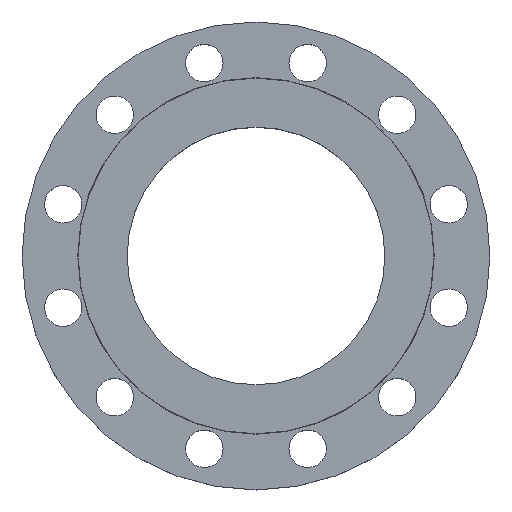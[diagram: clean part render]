
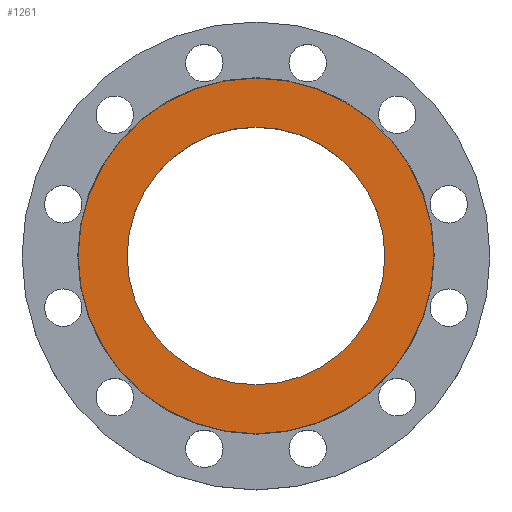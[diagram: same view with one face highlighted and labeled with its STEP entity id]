
A CAD part, top view. The second image highlights one B-rep face of the part: STEP entity #1261.
In plain terms, the highlighted planar face has unit normal (0, 0, 1).
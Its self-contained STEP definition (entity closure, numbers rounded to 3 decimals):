
#1 = VERTEX_POINT ( 'NONE', #631 ) ;
#26 = DIRECTION ( 'NONE',  ( 0., 0., 1. ) ) ;
#36 = AXIS2_PLACEMENT_3D ( 'NONE', #657, #1089, #47 ) ;
#47 = DIRECTION ( 'NONE',  ( -1., 0., 0. ) ) ;
#144 = FACE_OUTER_BOUND ( 'NONE', #395, .T. ) ;
#179 = EDGE_LOOP ( 'NONE', ( #524, #695 ) ) ;
#303 = CIRCLE ( 'NONE', #304, 103.25 ) ;
#304 = AXIS2_PLACEMENT_3D ( 'NONE', #441, #891, #1242 ) ;
#395 = EDGE_LOOP ( 'NONE', ( #699, #701 ) ) ;
#430 = CIRCLE ( 'NONE', #1044, 103.25 ) ;
#441 = CARTESIAN_POINT ( 'NONE',  ( 0., 0., 0. ) ) ;
#504 = DIRECTION ( 'NONE',  ( -1., 0., 0. ) ) ;
#506 = VERTEX_POINT ( 'NONE', #836 ) ;
#519 = DIRECTION ( 'NONE',  ( 0., 0., -1. ) ) ;
#524 = ORIENTED_EDGE ( 'NONE', *, *, #685, .T. ) ;
#538 = DIRECTION ( 'NONE',  ( 1., 0., 0. ) ) ;
#622 = CIRCLE ( 'NONE', #1013, 142.5 ) ;
#631 = CARTESIAN_POINT ( 'NONE',  ( -103.25, 0., 0. ) ) ;
#639 = PLANE ( 'NONE',  #918 ) ;
#657 = CARTESIAN_POINT ( 'NONE',  ( 0., 0., 0. ) ) ;
#685 = EDGE_CURVE ( 'NONE', #1, #946, #303, .T. ) ;
#695 = ORIENTED_EDGE ( 'NONE', *, *, #1197, .T. ) ;
#699 = ORIENTED_EDGE ( 'NONE', *, *, #1210, .F. ) ;
#701 = ORIENTED_EDGE ( 'NONE', *, *, #1016, .F. ) ;
#716 = VERTEX_POINT ( 'NONE', #780 ) ;
#780 = CARTESIAN_POINT ( 'NONE',  ( -142.5, 0., 0. ) ) ;
#836 = CARTESIAN_POINT ( 'NONE',  ( 142.5, 0., 0. ) ) ;
#891 = DIRECTION ( 'NONE',  ( 0., 0., -1. ) ) ;
#918 = AXIS2_PLACEMENT_3D ( 'NONE', #1059, #26, #538 ) ;
#942 = DIRECTION ( 'NONE',  ( -1., 0., 0. ) ) ;
#946 = VERTEX_POINT ( 'NONE', #1142 ) ;
#1013 = AXIS2_PLACEMENT_3D ( 'NONE', #1403, #519, #942 ) ;
#1016 = EDGE_CURVE ( 'NONE', #506, #716, #1027, .T. ) ;
#1027 = CIRCLE ( 'NONE', #36, 142.5 ) ;
#1036 = CARTESIAN_POINT ( 'NONE',  ( 0., 0., 0. ) ) ;
#1044 = AXIS2_PLACEMENT_3D ( 'NONE', #1036, #1391, #504 ) ;
#1059 = CARTESIAN_POINT ( 'NONE',  ( 0., 0., 0. ) ) ;
#1089 = DIRECTION ( 'NONE',  ( 0., 0., -1. ) ) ;
#1142 = CARTESIAN_POINT ( 'NONE',  ( 103.25, 0., 0. ) ) ;
#1145 = FACE_BOUND ( 'NONE', #179, .T. ) ;
#1197 = EDGE_CURVE ( 'NONE', #946, #1, #430, .T. ) ;
#1210 = EDGE_CURVE ( 'NONE', #716, #506, #622, .T. ) ;
#1242 = DIRECTION ( 'NONE',  ( -1., 0., 0. ) ) ;
#1261 = ADVANCED_FACE ( 'NONE', ( #1145, #144 ), #639, .T. ) ;
#1391 = DIRECTION ( 'NONE',  ( 0., 0., -1. ) ) ;
#1403 = CARTESIAN_POINT ( 'NONE',  ( 0., 0., 0. ) ) ;
